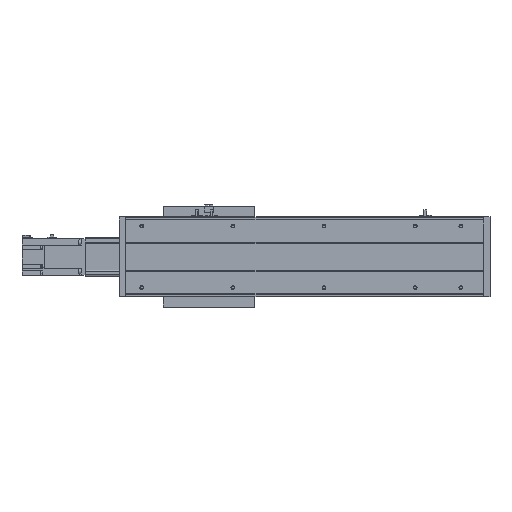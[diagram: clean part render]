
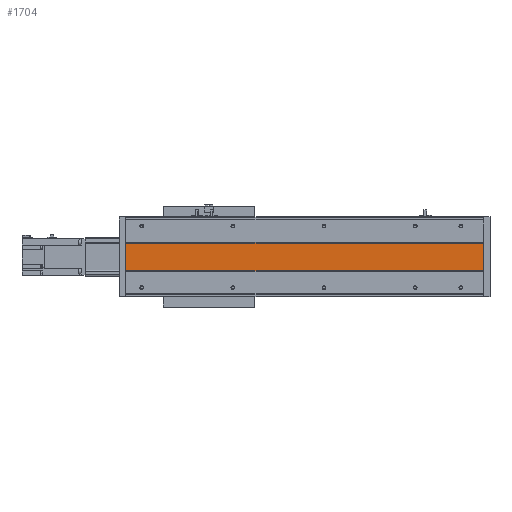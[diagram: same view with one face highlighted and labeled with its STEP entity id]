
A CAD part, front view. The second image highlights one B-rep face of the part: STEP entity #1704.
In plain terms, the highlighted planar face has unit normal (0, -1, 0).
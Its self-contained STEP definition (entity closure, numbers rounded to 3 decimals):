
#1704 = ADVANCED_FACE( '', ( #3456 ), #3457, .F. );
#3456 = FACE_OUTER_BOUND( '', #5177, .T. );
#3457 = PLANE( '', #5178 );
#5177 = EDGE_LOOP( '', ( #9780, #9781, #9782, #9783 ) );
#5178 = AXIS2_PLACEMENT_3D( '', #9784, #9785, #9786 );
#9780 = ORIENTED_EDGE( '', *, *, #10039, .F. );
#9781 = ORIENTED_EDGE( '', *, *, #11752, .T. );
#9782 = ORIENTED_EDGE( '', *, *, #11618, .T. );
#9783 = ORIENTED_EDGE( '', *, *, #11431, .F. );
#9784 = CARTESIAN_POINT( '', ( 813., 1., 30. ) );
#9785 = DIRECTION( '', ( 0., 1., 0. ) );
#9786 = DIRECTION( '', ( 0., 0., 1. ) );
#10039 = EDGE_CURVE( '', #11949, #11951, #11952, .T. );
#11431 = EDGE_CURVE( '', #11951, #14124, #14125, .T. );
#11618 = EDGE_CURVE( '', #14348, #14124, #14349, .T. );
#11752 = EDGE_CURVE( '', #11949, #14348, #14490, .T. );
#11949 = VERTEX_POINT( '', #14746 );
#11951 = VERTEX_POINT( '', #14749 );
#11952 = LINE( '', #14750, #14751 );
#14124 = VERTEX_POINT( '', #17832 );
#14125 = LINE( '', #17833, #17834 );
#14348 = VERTEX_POINT( '', #18159 );
#14349 = LINE( '', #18160, #18161 );
#14490 = LINE( '', #18338, #18339 );
#14746 = CARTESIAN_POINT( '', ( 799., 1., 30. ) );
#14749 = CARTESIAN_POINT( '', ( 799., 1., -30. ) );
#14750 = CARTESIAN_POINT( '', ( 799., 1., 30. ) );
#14751 = VECTOR( '', #18481, 1000. );
#17832 = CARTESIAN_POINT( '', ( 14., 1., -30. ) );
#17833 = CARTESIAN_POINT( '', ( 813., 1., -30. ) );
#17834 = VECTOR( '', #19940, 1000. );
#18159 = CARTESIAN_POINT( '', ( 14., 1., 30. ) );
#18160 = CARTESIAN_POINT( '', ( 14., 1., 30. ) );
#18161 = VECTOR( '', #20106, 1000. );
#18338 = CARTESIAN_POINT( '', ( 813., 1., 30. ) );
#18339 = VECTOR( '', #20170, 1000. );
#18481 = DIRECTION( '', ( 0., 0., -1. ) );
#19940 = DIRECTION( '', ( -1., 0., 0. ) );
#20106 = DIRECTION( '', ( 0., 0., -1. ) );
#20170 = DIRECTION( '', ( -1., 0., 0. ) );
